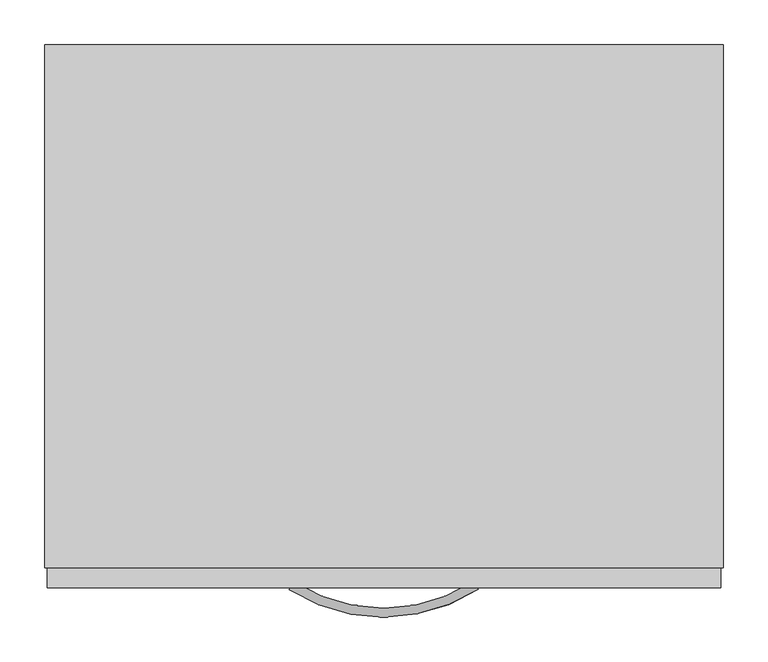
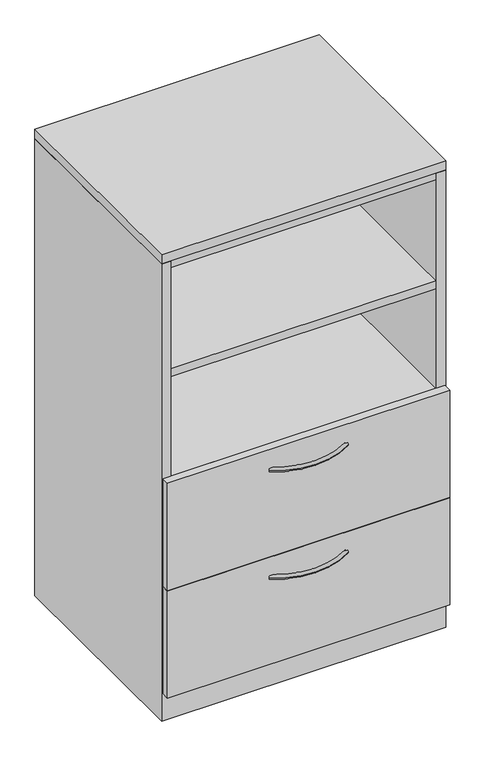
"""IFC4 building model written with IfcOpenShell, lengths in millimetres: furniture geometry, Steelcase - Universal Storage - Cabinet - Combination - Proud Steel : 52H - Open Cabinet/2 Drawers - 24D x 30W."""

from ifc_helpers import new_model, si_unit, point, frame, origin, place, context, project, spatial, polyline, circle_curve, ellipse_curve, trimmed, outline, extrude, faceted_brep, source, transform, mapped, element, save
from ifc_brep_helpers import plane_surface, revolved_surface, advanced_brep


def furniture_b1059ee5(model_context):
    return source(origin(), model_context, "Body", "SolidModel", [
        extrude(outline(polyline([(736.6000242, 104.6479992), (736.6000242, -454.0250121), (25.4000008, -454.0250121), (25.4000008, 104.6479992), (736.6000242, 104.6479992)])), frame((0.0, 0.0, 660.4000242), z_axis=(0.0, 0.0, 1.0), x_axis=(1.0, 0.0, 0.0)), (0.0, 0.0, 1.0), 22.2249516),
        extrude(outline(polyline([(736.6000242, 104.6479992), (736.6000242, -454.0250121), (25.4000008, -454.0250121), (25.4000008, 104.6479992), (736.6000242, 104.6479992)])), frame((0.0, 0.0, 965.2000242), z_axis=(0.0, 0.0, 1.0), x_axis=(1.0, 0.0, 0.0)), (0.0, 0.0, 1.0), 22.2249516),
        extrude(outline(polyline([(736.6000242, 104.6479992), (736.6000242, -454.0250121), (25.4000008, -454.0250121), (25.4000008, 104.6479992), (736.6000242, 104.6479992)])), frame((0.0, 0.0, 1273.1750484), z_axis=(0.0, 0.0, 1.0), x_axis=(1.0, 0.0, 0.0)), (0.0, 0.0, 1.0), 22.2249516),
        advanced_brep(
        [(274.4245932, -481.5705994, 323.56425), (279.8977519, -473.0108019, 323.56425), (486.7315136, -481.1337636, 323.56425), (481.2231767, -472.5965612, 323.56425)],
        [
            (0, 1, circle_curve(frame((277.1611726, -477.2907007, 323.56425), z_axis=(-0.8424997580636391, 0.5386967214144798, 0.0), x_axis=(0.5386967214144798, 0.8424997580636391, 0.0)), 5.08)),
            (1, 0, circle_curve(frame((277.1611726, -477.2907007, 323.56425), z_axis=(-0.8424997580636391, 0.5386967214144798, 0.0), x_axis=(0.5386967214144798, 0.8424997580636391, 0.0)), 5.08)),
            (2, 3, circle_curve(frame((483.9773452, -476.8651624, 323.56425), z_axis=(0.8402758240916, 0.5421591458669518, 0.0), x_axis=(-0.5421591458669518, 0.8402758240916, 0.0)), 5.08)),
            (3, 2, circle_curve(frame((483.9773452, -476.8651624, 323.56425), z_axis=(0.8402758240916, 0.5421591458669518, 0.0), x_axis=(-0.5421591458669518, 0.8402758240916, 0.0)), 5.08)),
            (3, 1, circle_curve(frame((380.2380004, -316.0827352, 323.56425), z_axis=(0.0, 0.0, -1.0), x_axis=(-0.5386967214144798, -0.8424997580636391, 0.0)), 186.2648211)),
            (0, 2, circle_curve(frame((380.2380004, -316.0827352, 323.56425), z_axis=(0.0, 0.0, 1.0), x_axis=(-0.5386967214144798, -0.8424997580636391, 0.0)), 196.4248211)),
        ],
        [
            plane_surface(frame((277.5794521, -476.6365286, 324.358), z_axis=(-0.8424997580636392, 0.5386967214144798, 0.0), x_axis=(0.0, 0.0, 1.0))),
            plane_surface(frame((483.5563772, -476.2127171, 324.358), z_axis=(0.8402758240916, 0.5421591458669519, 0.0), x_axis=(0.0, 0.0, 1.0))),
            revolved_surface(trimmed(ellipse_curve(frame((277.1611726, -477.2907007, 323.56425), z_axis=(-0.8424997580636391, 0.5386967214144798, 0.0), x_axis=(0.5386967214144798, 0.8424997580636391, 0.0)), 5.08, 5.08), [point((274.4245932, -481.5705994, 323.56425))], [point((279.8977519, -473.0108019, 323.56425))], True, "CARTESIAN"), (380.2380004, -316.0827352, 324.358), (0.0, 0.0, 1.0)),
            revolved_surface(trimmed(ellipse_curve(frame((277.1611726, -477.2907007, 323.56425), z_axis=(-0.8424997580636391, 0.5386967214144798, 0.0), x_axis=(0.5386967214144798, 0.8424997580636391, 0.0)), 5.08, 5.08), [point((279.8977519, -473.0108019, 323.56425))], [point((274.4245932, -481.5705994, 323.56425))], True, "CARTESIAN"), (380.2380004, -316.0827352, 324.358), (0.0, 0.0, 1.0)),
        ],
        [
            (0, [[1, 2]]),
            (1, [[3, 4]]),
            (2, [[5, -1, 6, -4]]),
            (3, [[-6, -2, -5, -3]]),
        ],
    ),
        advanced_brep(
        [(274.4245932, -481.5705994, 627.85625), (279.8977519, -473.0108019, 627.85625), (486.7315136, -481.1337636, 627.85625), (481.2231767, -472.5965612, 627.85625)],
        [
            (0, 1, circle_curve(frame((277.1611726, -477.2907007, 627.85625), z_axis=(-0.8424997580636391, 0.5386967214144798, 0.0), x_axis=(0.5386967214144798, 0.8424997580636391, 0.0)), 5.08)),
            (1, 0, circle_curve(frame((277.1611726, -477.2907007, 627.85625), z_axis=(-0.8424997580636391, 0.5386967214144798, 0.0), x_axis=(0.5386967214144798, 0.8424997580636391, 0.0)), 5.08)),
            (2, 3, circle_curve(frame((483.9773452, -476.8651624, 627.85625), z_axis=(0.8402758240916, 0.5421591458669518, 0.0), x_axis=(-0.5421591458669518, 0.8402758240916, 0.0)), 5.08)),
            (3, 2, circle_curve(frame((483.9773452, -476.8651624, 627.85625), z_axis=(0.8402758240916, 0.5421591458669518, 0.0), x_axis=(-0.5421591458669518, 0.8402758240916, 0.0)), 5.08)),
            (3, 1, circle_curve(frame((380.2380004, -316.0827352, 627.85625), z_axis=(0.0, 0.0, -1.0), x_axis=(-0.5386967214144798, -0.8424997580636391, 0.0)), 186.2648211)),
            (0, 2, circle_curve(frame((380.2380004, -316.0827352, 627.85625), z_axis=(0.0, 0.0, 1.0), x_axis=(-0.5386967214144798, -0.8424997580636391, 0.0)), 196.4248211)),
        ],
        [
            plane_surface(frame((277.5794521, -476.6365286, 628.65), z_axis=(-0.8424997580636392, 0.5386967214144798, 0.0), x_axis=(0.0, 0.0, 1.0))),
            plane_surface(frame((483.5563772, -476.2127171, 628.65), z_axis=(0.8402758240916, 0.5421591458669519, 0.0), x_axis=(0.0, 0.0, 1.0))),
            revolved_surface(trimmed(ellipse_curve(frame((277.1611726, -477.2907007, 627.85625), z_axis=(-0.8424997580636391, 0.5386967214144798, 0.0), x_axis=(0.5386967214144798, 0.8424997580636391, 0.0)), 5.08, 5.08), [point((274.4245932, -481.5705994, 627.85625))], [point((279.8977519, -473.0108019, 627.85625))], True, "CARTESIAN"), (380.2380004, -316.0827352, 628.65), (0.0, 0.0, 1.0)),
            revolved_surface(trimmed(ellipse_curve(frame((277.1611726, -477.2907007, 627.85625), z_axis=(-0.8424997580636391, 0.5386967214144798, 0.0), x_axis=(0.5386967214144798, 0.8424997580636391, 0.0)), 5.08, 5.08), [point((279.8977519, -473.0108019, 627.85625))], [point((274.4245932, -481.5705994, 627.85625))], True, "CARTESIAN"), (380.2380004, -316.0827352, 628.65), (0.0, 0.0, 1.0)),
        ],
        [
            (0, [[1, 2]]),
            (1, [[3, 4]]),
            (2, [[5, -1, 6, -4]]),
            (3, [[-6, -2, -5, -3]]),
        ],
    ),
        faceted_brep([(25.4000008, -457.3261219, 76.2), (736.6000242, -457.3261219, 76.2), (736.6000242, 104.6479992, 76.2), (25.4000008, 104.6479992, 76.2), (762.0, 130.048, 0.0), (762.0, -457.3261219, 0.0), (0.0, -457.3261219, 0.0), (0.0, 130.048, 0.0), (0.0, 130.048, 1293.876), (762.0, 130.048, 1293.876), (0.0, -457.3261219, 1293.876), (762.0, -457.3261219, 1293.876), (736.6000242, -457.3261219, 1293.876), (25.4000008, -457.3261219, 1293.876), (736.6000242, 104.6479992, 1293.876), (25.4000008, 104.6479992, 1293.876)], [[[0, 1, 2, 3]], [[4, 5, 6, 7]], [[4, 7, 8, 9]], [[8, 7, 6, 10]], [[10, 6, 5, 11, 12, 1, 0, 13]], [[11, 5, 4, 9]], [[14, 12, 11, 9, 8, 10, 13, 15]], [[12, 14, 2, 1]], [[15, 13, 0, 3]], [[14, 15, 3, 2]]]),
        extrude(outline(polyline([(758.8225413, -479.552), (3.1725353, -479.552), (3.1725353, -457.3261219), (758.8225413, -457.3261219), (758.8225413, -479.552)])), frame((0.0, 0.0, 77.724), z_axis=(0.0, 0.0, 1.0), x_axis=(1.0, 0.0, 0.0)), (0.0, 0.0, 1.0), 303.276),
        extrude(outline(polyline([(758.8225413, -479.552), (3.1725353, -479.552), (3.1725353, -457.3261219), (758.8225413, -457.3261219), (758.8225413, -479.552)])), frame((0.0, 0.0, 382.524), z_axis=(0.0, 0.0, 1.0), x_axis=(1.0, 0.0, 0.0)), (0.0, 0.0, 1.0), 303.276),
        extrude(outline(polyline([(762.0, 130.048), (762.0, -457.3261219), (0.0, -457.3261219), (0.0, 130.048), (762.0, 130.048)])), frame((0.0, 0.0, 1295.3999516), z_axis=(0.0, 0.0, 1.0), x_axis=(1.0, 0.0, 0.0)), (0.0, 0.0, 1.0), 25.4000484),
    ])


if __name__ == "__main__":
    model = new_model("IFC4")
    model_context = context("Model", 3, world=origin())
    ifc_project = project(units=[si_unit("LENGTHUNIT", "METRE", prefix="MILLI")], contexts=[model_context])
    site = spatial("IfcSite", under=ifc_project)
    building = spatial("IfcBuilding", under=site)
    placement = place(None, origin())
    furniture_shape = furniture_b1059ee5(model_context)
    element("IfcFurniture", 1, ObjectType="Steelcase - Universal Storage - Cabinet - Combination - Proud Steel : 52H - Open Cabinet/2 Drawers - 24D x 30W", at=placement, inside=building, context=model_context, shape_type="MappedRepresentation", body=[
        mapped(furniture_shape, transform((0.0, 0.0, 0.0), x_axis=(1.0, 0.0, 0.0), y_axis=(0.0, 1.0, 0.0), z_axis=(0.0, 0.0, 1.0))),
    ])
    save(model, "model.ifc")
